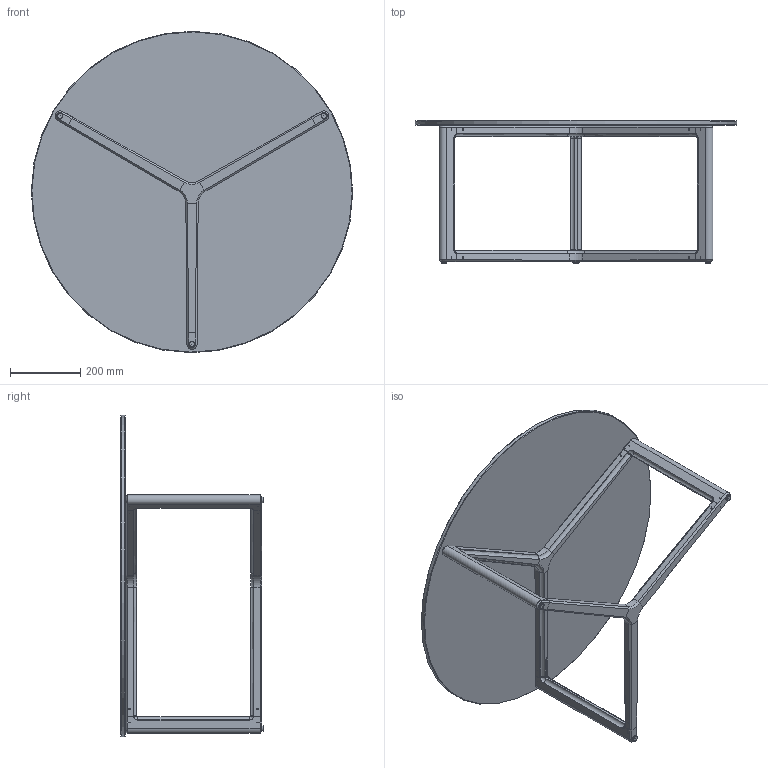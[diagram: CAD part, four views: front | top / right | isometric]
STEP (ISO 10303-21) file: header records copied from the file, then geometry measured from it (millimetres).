
FILE_DESCRIPTION(/* description */ ('SPANNER, COFFEE TABLE, 36''''X 16.5''''H'),/* implementation_level */ '2;1');
FILE_NAME(/* name */ '1152-ROUND-GL.stp',/* time_stamp */ '2024-02-20T14:20:27-05:00',/* author */ ('aunderhill'),/* organization */ (''),/* preprocessor_version */ 'ST-DEVELOPER v19.2',/* originating_system */ 'Autodesk Inventor 2023',/* authorisation */ '');
FILE_SCHEMA (('AUTOMOTIVE_DESIGN { 1 0 10303 214 3 1 1 }'));
Length unit declared in the file: inch
Products named in the file (9): 1152; 1152-001; 1150-002; 1152-003; 1152-004; 97506; FA058; GL1236D; HD01-179
Assembly tree (43 placements, depth 3):
  1152
    1152-001
      1150-002  x2
      1152-003  x6
      1152-004  x3
      97506  x3
      FA058  x24
    GL1236D
    HD01-179  x3
Bounding box: 914.37 x 406.4 x 914.37 mm (x, y, z)
Volume: 11672136.6 mm3; surface area: 1859953.6 mm2
Topology: 42 solids, 42 shells, 459 faces, 870 edges, 546 vertices
Faces by surface type: plane 225, cylinder 109, cone 65, bspline 51, torus 9
Full cylindrical faces by diameter (mm): 1.575 x3, 9.728 x72, 15.875 x3, 914.4 x1
Entity records: 3752 total; most frequent: CARTESIAN_POINT 905, DIRECTION 575, ORIENTED_EDGE 428, AXIS2_PLACEMENT_3D 235, EDGE_CURVE 214, VERTEX_POINT 137, EDGE_LOOP 121, FACE_OUTER_BOUND 106
